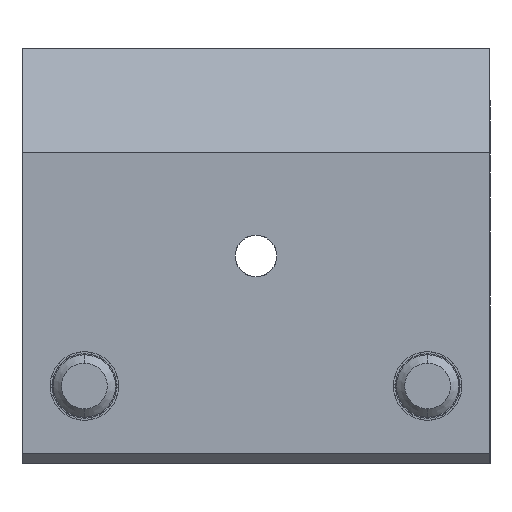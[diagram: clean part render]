
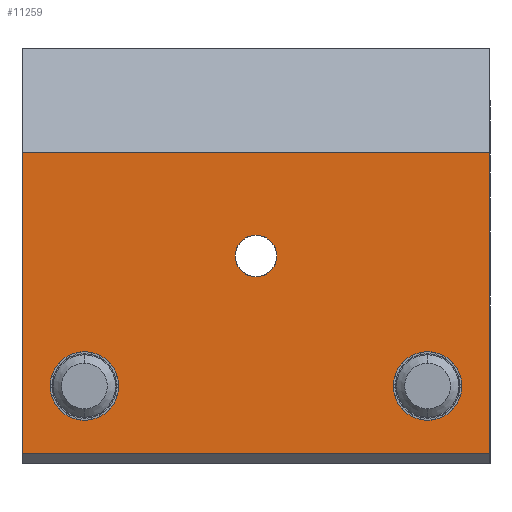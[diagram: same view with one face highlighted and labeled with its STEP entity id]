
A CAD part, front view. The second image highlights one B-rep face of the part: STEP entity #11259.
In plain terms, the highlighted planar face has unit normal (0, -1, 0).
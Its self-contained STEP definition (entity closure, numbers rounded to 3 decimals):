
#512 = VERTEX_POINT ( 'NONE', #13106 ) ;
#675 = PLANE ( 'NONE',  #14927 ) ;
#735 = DIRECTION ( 'NONE',  ( 0., 0., 1. ) ) ;
#819 = CARTESIAN_POINT ( 'NONE',  ( -24.592, -41.34, -26.271 ) ) ;
#875 = FACE_OUTER_BOUND ( 'NONE', #13868, .T. ) ;
#1005 = CARTESIAN_POINT ( 'NONE',  ( -24.592, -41.34, -45.271 ) ) ;
#1195 = ORIENTED_EDGE ( 'NONE', *, *, #8485, .F. ) ;
#1206 = EDGE_CURVE ( 'NONE', #5886, #2212, #2345, .T. ) ;
#1535 = CARTESIAN_POINT ( 'NONE',  ( -2.092, -41.34, -45.271 ) ) ;
#1775 = EDGE_CURVE ( 'NONE', #512, #12191, #15244, .T. ) ;
#2212 = VERTEX_POINT ( 'NONE', #17582 ) ;
#2302 = AXIS2_PLACEMENT_3D ( 'NONE', #3745, #13773, #5189 ) ;
#2345 = CIRCLE ( 'NONE', #16057, 3.3 ) ;
#3012 = DIRECTION ( 'NONE',  ( 0., -1., 0. ) ) ;
#3466 = EDGE_CURVE ( 'NONE', #13216, #4967, #8848, .T. ) ;
#3555 = LINE ( 'NONE', #12007, #11238 ) ;
#3721 = CIRCLE ( 'NONE', #2302, 3.3 ) ;
#3745 = CARTESIAN_POINT ( 'NONE',  ( -8.092, -41.34, -38.771 ) ) ;
#3814 = FACE_BOUND ( 'NONE', #17430, .T. ) ;
#3916 = DIRECTION ( 'NONE',  ( -1., 0., 0. ) ) ;
#4145 = VECTOR ( 'NONE', #3916, 1000. ) ;
#4367 = ORIENTED_EDGE ( 'NONE', *, *, #3466, .F. ) ;
#4430 = EDGE_LOOP ( 'NONE', ( #9331, #14640 ) ) ;
#4607 = VERTEX_POINT ( 'NONE', #8317 ) ;
#4764 = DIRECTION ( 'NONE',  ( 1., 0., 0. ) ) ;
#4851 = ORIENTED_EDGE ( 'NONE', *, *, #1206, .F. ) ;
#4875 = VERTEX_POINT ( 'NONE', #14681 ) ;
#4903 = EDGE_CURVE ( 'NONE', #13140, #4607, #3555, .T. ) ;
#4967 = VERTEX_POINT ( 'NONE', #9418 ) ;
#5154 = DIRECTION ( 'NONE',  ( 0., 0., -1. ) ) ;
#5189 = DIRECTION ( 'NONE',  ( 0., 0., 1. ) ) ;
#5886 = VERTEX_POINT ( 'NONE', #6365 ) ;
#6365 = CARTESIAN_POINT ( 'NONE',  ( -8.092, -41.34, -35.471 ) ) ;
#6411 = DIRECTION ( 'NONE',  ( 0., -1., 0. ) ) ;
#6699 = DIRECTION ( 'NONE',  ( 0., -1., 0. ) ) ;
#7066 = EDGE_LOOP ( 'NONE', ( #4851, #11624 ) ) ;
#7546 = DIRECTION ( 'NONE',  ( 0., -1., 0. ) ) ;
#7942 = DIRECTION ( 'NONE',  ( 0., -1., 0. ) ) ;
#7958 = LINE ( 'NONE', #1005, #4145 ) ;
#7984 = AXIS2_PLACEMENT_3D ( 'NONE', #11662, #3012, #13071 ) ;
#8317 = CARTESIAN_POINT ( 'NONE',  ( -2.092, -41.34, -16.271 ) ) ;
#8485 = EDGE_CURVE ( 'NONE', #4967, #13216, #12897, .T. ) ;
#8582 = ORIENTED_EDGE ( 'NONE', *, *, #10163, .F. ) ;
#8848 = CIRCLE ( 'NONE', #18016, 3.3 ) ;
#9331 = ORIENTED_EDGE ( 'NONE', *, *, #11631, .F. ) ;
#9403 = DIRECTION ( 'NONE',  ( 0., 1., 0. ) ) ;
#9418 = CARTESIAN_POINT ( 'NONE',  ( -41.092, -41.34, -35.471 ) ) ;
#9461 = CIRCLE ( 'NONE', #14816, 2. ) ;
#10163 = EDGE_CURVE ( 'NONE', #13869, #4875, #7958, .T. ) ;
#10194 = VECTOR ( 'NONE', #5154, 1000. ) ;
#10665 = LINE ( 'NONE', #12324, #10194 ) ;
#10913 = CARTESIAN_POINT ( 'NONE',  ( -41.092, -41.34, -42.071 ) ) ;
#11014 = LINE ( 'NONE', #12643, #14288 ) ;
#11238 = VECTOR ( 'NONE', #4764, 1000. ) ;
#11259 = ADVANCED_FACE ( 'NONE', ( #18542, #3814, #15198, #875 ), #675, .F. ) ;
#11624 = ORIENTED_EDGE ( 'NONE', *, *, #16582, .F. ) ;
#11631 = EDGE_CURVE ( 'NONE', #12191, #512, #9461, .T. ) ;
#11662 = CARTESIAN_POINT ( 'NONE',  ( -41.092, -41.34, -38.771 ) ) ;
#12007 = CARTESIAN_POINT ( 'NONE',  ( -24.592, -41.34, -16.271 ) ) ;
#12024 = CARTESIAN_POINT ( 'NONE',  ( -47.092, -41.34, -16.271 ) ) ;
#12181 = ORIENTED_EDGE ( 'NONE', *, *, #4903, .F. ) ;
#12191 = VERTEX_POINT ( 'NONE', #14862 ) ;
#12324 = CARTESIAN_POINT ( 'NONE',  ( -2.092, -41.34, -30.771 ) ) ;
#12643 = CARTESIAN_POINT ( 'NONE',  ( -47.092, -41.34, -26.271 ) ) ;
#12897 = CIRCLE ( 'NONE', #7984, 3.3 ) ;
#13071 = DIRECTION ( 'NONE',  ( 0., 0., 1. ) ) ;
#13106 = CARTESIAN_POINT ( 'NONE',  ( -24.592, -41.34, -28.271 ) ) ;
#13140 = VERTEX_POINT ( 'NONE', #12024 ) ;
#13216 = VERTEX_POINT ( 'NONE', #10913 ) ;
#13773 = DIRECTION ( 'NONE',  ( 0., -1., 0. ) ) ;
#13821 = DIRECTION ( 'NONE',  ( 0., 0., 1. ) ) ;
#13868 = EDGE_LOOP ( 'NONE', ( #8582, #17467, #12181, #14591 ) ) ;
#13869 = VERTEX_POINT ( 'NONE', #1535 ) ;
#14288 = VECTOR ( 'NONE', #15484, 1000. ) ;
#14318 = AXIS2_PLACEMENT_3D ( 'NONE', #819, #7942, #16952 ) ;
#14591 = ORIENTED_EDGE ( 'NONE', *, *, #14619, .T. ) ;
#14619 = EDGE_CURVE ( 'NONE', #13140, #4875, #11014, .T. ) ;
#14640 = ORIENTED_EDGE ( 'NONE', *, *, #1775, .F. ) ;
#14681 = CARTESIAN_POINT ( 'NONE',  ( -47.092, -41.34, -45.271 ) ) ;
#14816 = AXIS2_PLACEMENT_3D ( 'NONE', #16045, #7546, #17490 ) ;
#14862 = CARTESIAN_POINT ( 'NONE',  ( -24.592, -41.34, -24.271 ) ) ;
#14927 = AXIS2_PLACEMENT_3D ( 'NONE', #17868, #9403, #735 ) ;
#14928 = CARTESIAN_POINT ( 'NONE',  ( -41.092, -41.34, -38.771 ) ) ;
#15017 = EDGE_CURVE ( 'NONE', #4607, #13869, #10665, .T. ) ;
#15198 = FACE_BOUND ( 'NONE', #4430, .T. ) ;
#15244 = CIRCLE ( 'NONE', #14318, 2. ) ;
#15484 = DIRECTION ( 'NONE',  ( 0., 0., -1. ) ) ;
#16045 = CARTESIAN_POINT ( 'NONE',  ( -24.592, -41.34, -26.271 ) ) ;
#16057 = AXIS2_PLACEMENT_3D ( 'NONE', #18383, #6699, #13821 ) ;
#16339 = DIRECTION ( 'NONE',  ( 0., 0., 1. ) ) ;
#16582 = EDGE_CURVE ( 'NONE', #2212, #5886, #3721, .T. ) ;
#16952 = DIRECTION ( 'NONE',  ( 0., 0., 1. ) ) ;
#17430 = EDGE_LOOP ( 'NONE', ( #1195, #4367 ) ) ;
#17467 = ORIENTED_EDGE ( 'NONE', *, *, #15017, .F. ) ;
#17490 = DIRECTION ( 'NONE',  ( 0., 0., 1. ) ) ;
#17582 = CARTESIAN_POINT ( 'NONE',  ( -8.092, -41.34, -42.071 ) ) ;
#17868 = CARTESIAN_POINT ( 'NONE',  ( -47.092, -41.34, -45.271 ) ) ;
#18016 = AXIS2_PLACEMENT_3D ( 'NONE', #14928, #6411, #16339 ) ;
#18383 = CARTESIAN_POINT ( 'NONE',  ( -8.092, -41.34, -38.771 ) ) ;
#18542 = FACE_BOUND ( 'NONE', #7066, .T. ) ;
